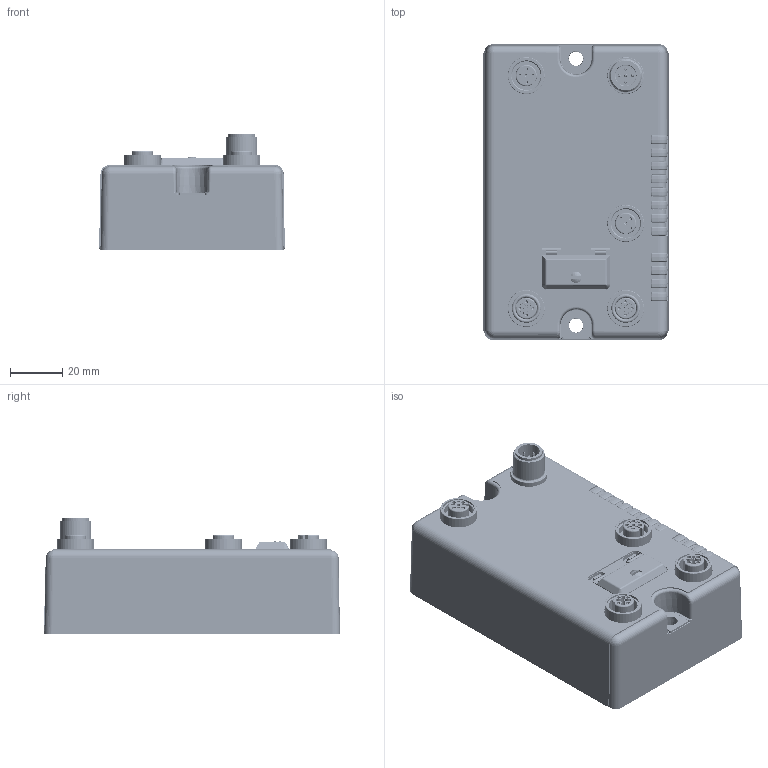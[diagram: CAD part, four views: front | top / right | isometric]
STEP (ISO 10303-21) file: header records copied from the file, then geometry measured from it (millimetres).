
FILE_DESCRIPTION((''),'2;1');
FILE_NAME('C:\Documents and Settings\citali\Desktop\20101101\F6811607.stp','2010-11-01T11:52:18',('CItali'),(''),'Autodesk Inventor 2010','Autodesk Inventor 2010','');
FILE_SCHEMA(('AUTOMOTIVE_DESIGN { 1 0 10303 214 1 1 1 1 }'));
Length unit declared in the file: millimetre
Products named in the file (116): BLCEN-IP; 10163735; 10163817; 8012251; 8039075; 10164505 (for 8039075); 8014036; 8015015; 20203908; 8004928; 8039104; 8039105; 8005214; 8005391 (Stretched to 8.2mm ID); 10130292; 10130291; 20204516; 10163844; 8029520; 8029519; 20204526; 10163786; 10163813; 10130293; 10163738; 10163738 - ASP-137487-01-B; 10163738 - T-1S6-10-L-2; 10163738 - T-1S6-15-L-2; 17030521; 20203911; 10160574; 8039046; 8014826; 8033759; 10267065 (Serial Number); 10267065 (Firmware); 17047804; 12025004; 07140603; C0402, 0.01uF-0402-10%-16V_1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
Assembly tree (376 placements, depth 4):
  BLCEN-IP
    10163735
    10163817
    8012251
    8039075
    10164505 (for 8039075)
    8014036
    8015015
    20203908  x2
      8004928
      8039104
        8039105
        8005214  x5
      8005391 (Stretched to 8.2mm ID)
    10130292  x9
    10130291  x3
    20204516
      10163844
      8029520
        8029519
        8005214  x4
      8005391 (Stretched to 8.2mm ID)
    20204526
      10163844
      8029520
        8029519
        8005214  x4
      8005391 (Stretched to 8.2mm ID)
    10163786
    10163813  x2
    10130293
    10163738
      10163738 - ASP-137487-01-B
      10163738 - T-1S6-10-L-2  x18
      10163738 - T-1S6-15-L-2  x18
    17030521
    20203911
      10160574
      8039046
        8014826
        8033759  x5
    10267065 (Serial Number)
    10267065 (Firmware)
    17047804
      12025004
        07140603
        C0402, 0.01uF-0402-10%-16V_1  x15
        R0402, 1K-0402-1%-62.5mW_5  x7
        R0603A, 12.4K-0603-1%-62.5mW_7
        CELC6_H=7.7, 100uF-ALE-20%-35V_10  x2
        C0402, 0.1uF-0402-10%-16V_12  x23
        QFN56, IC-LAN9303I-ABZJ_14
        SMC, DIO-SUP-SMCJ33CA_33V_16  x3
        C0402, 22pF-0402-5%-50V_19  x2
        R0402, 10K-0402-1%-62.5mW_22  x20
        DLED-3412-1305-REVMNT-ALT, DIOLD-REV-MNT-GRN_24  x2
        R0402, 10-0402-5%-62.5mW_27  x5
        R0402, 560-0402-1%-62.5mW_33  x7
        R1206, 0-1206-10%-125mW_35  x11
        C1206, 1nf-1206-10%-2000V_38  x5
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Bounding box: 70.99 x 113.12 x 44.4 mm (x, y, z)
Volume: 90982.4 mm3; surface area: 130726.1 mm2
Topology: 376 solids, 376 shells, 10793 faces, 27094 edges, 17420 vertices
Faces by surface type: plane 5284, cylinder 2975, cone 1167, bspline 994, torus 297, sphere 76
Full cylindrical faces by diameter (mm): 0.508 x36, 0.6 x8, 0.65 x36, 1 x53, 1.1 x10, 1.168 x4, 1.2 x10, 1.27 x36, 1.3 x10, 1.4 x48, 1.5 x3, 1.6 x90, 1.7 x10, 1.8 x56, 1.9 x4, 1.981 x36, 2 x25, 2.459 x1, 2.5 x2, 2.6 x4, 3 x6, 3.2 x1, 3.3 x12, 3.812 x1, 3.89 x1, 4.3 x1, 4.37 x3, 4.6 x1, 5.6 x1, 7 x1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
Entity records: 149259 total; most frequent: CARTESIAN_POINT 41556, DIRECTION 21180, ORIENTED_EDGE 21132, EDGE_CURVE 10566, AXIS2_PLACEMENT_3D 7402, VERTEX_POINT 7119, VECTOR 6376, LINE 6376
